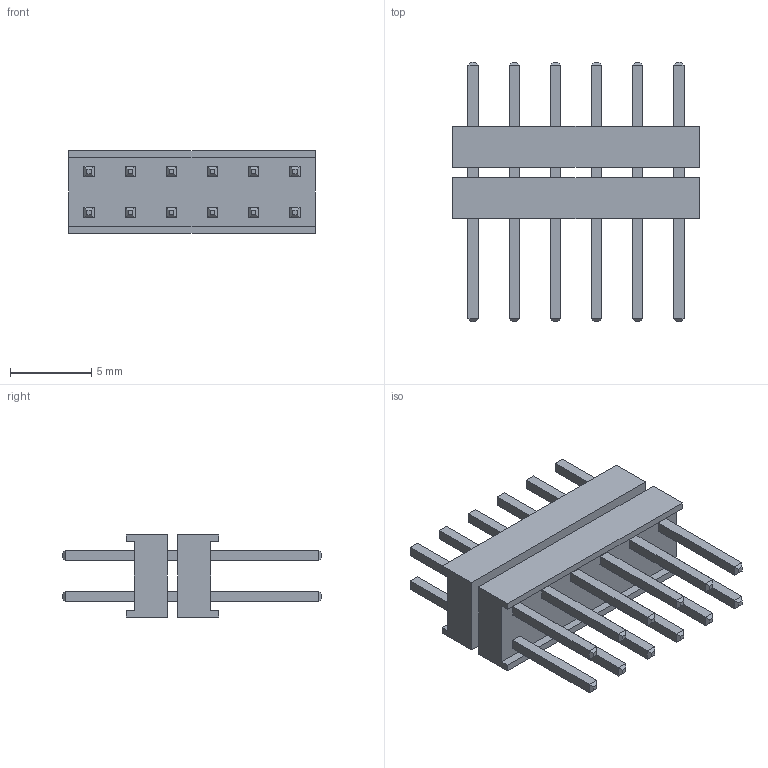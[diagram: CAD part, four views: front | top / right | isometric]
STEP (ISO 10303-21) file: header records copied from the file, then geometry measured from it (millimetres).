
FILE_DESCRIPTION(/* description */ ('STEP AP214'),/* implementation_level */ '2;1');
FILE_NAME(/* name */ 'ZW-06-15-G-D-225-250',/* time_stamp */ '2024-09-11T18:34:22+02:00',/* author */ ('License CC BY-ND 4.0'),/* organization */ ('CADENAS'),/* preprocessor_version */ 'ST-DEVELOPER v19.3',/* originating_system */ 'PARTsolutions',/* authorisation */ ' ');
FILE_SCHEMA (('AUTOMOTIVE_DESIGN {1 0 10303 214 3 1 1}'));
Length unit declared in the file: inch
Products named in the file (4): ZW-06-15-G-D-225-250; ZW-06-15-G-D-225-250bbody; ZW-06-15-G-D-225-250_pins; ZW-06-15-G-D-225-250_top_body
Assembly tree (3 placements, depth 2):
  ZW-06-15-G-D-225-250
    ZW-06-15-G-D-225-250bbody
    ZW-06-15-G-D-225-250_pins
    ZW-06-15-G-D-225-250_top_body
Bounding box: 15.24 x 16 x 5.08 mm (x, y, z)
Volume: 395.9 mm3; surface area: 1219.7 mm2
Topology: 3 solids, 3 shells, 334 faces, 828 edges, 520 vertices
Faces by surface type: plane 334
Entity records: 9764 total; most frequent: CARTESIAN_POINT 1686, ORIENTED_EDGE 1656, DIRECTION 1504, EDGE_CURVE 828, LINE 828, VECTOR 828, VERTEX_POINT 520, EDGE_LOOP 402
